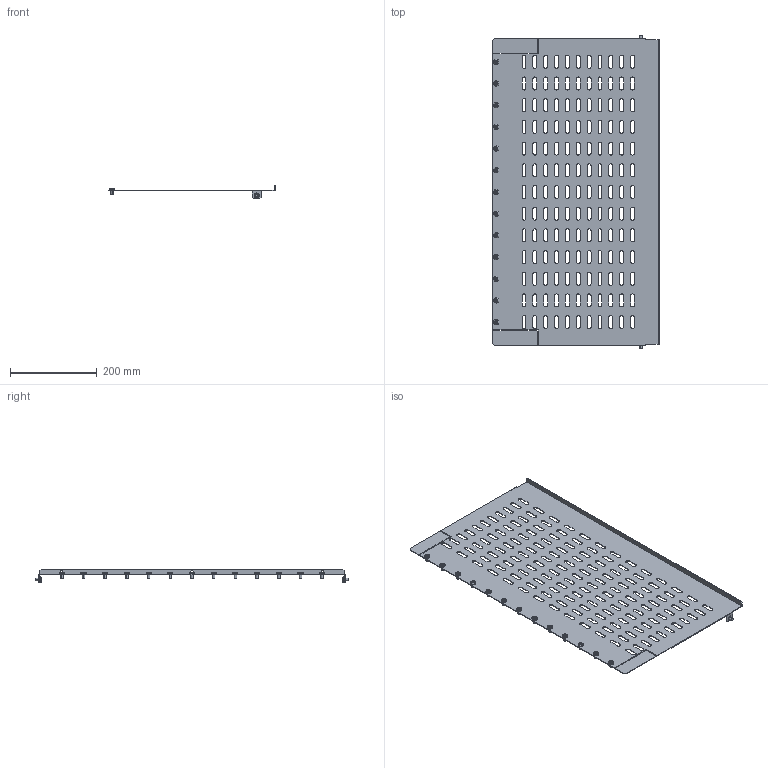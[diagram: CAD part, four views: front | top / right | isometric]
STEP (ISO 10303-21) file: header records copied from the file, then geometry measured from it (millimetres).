
FILE_DESCRIPTION (( 'STEP AP214' ), '1' );
FILE_NAME ('FO-00-SWHR-080 Ïåðåãîðîäêà ñåêöèîíèðîâàíèÿ ãîðèçîíòàëüíàÿ àïïàðàòíîãî îòñåêà øèðèíà 800 ìì.STEP', '2025-08-06T12:20:03', ( '' ), ( '' ), 'SwSTEP 2.0', 'SolidWorks 2023', '' );
FILE_SCHEMA (( 'AUTOMOTIVE_DESIGN' ));
Length unit declared in the file: millimetre
Products named in the file (3): Винт М6х10 IEK; Перегородка секционирования горизонтальная аппаратного отсека ширина 800 мм; FO-00-SWHR-080 Перегородка секционирования горизонтальная аппаратного отсека ширина 800 мм
Assembly tree (16 placements, depth 2):
  FO-00-SWHR-080 Перегородка секционирования горизонтальная аппаратного отсека ширина 800 мм
    Перегородка секционирования горизонтальная аппаратного отсека ширина 800 мм
    Винт М6х10 IEK  x15
Bounding box: 383.5 x 723 x 30.5 mm (x, y, z)
Volume: 373964.6 mm3; surface area: 512776.8 mm2
Topology: 16 solids, 16 shells, 1137 faces, 3135 edges, 2060 vertices
Faces by surface type: plane 530, cylinder 382, cone 165, torus 60
Entity records: 24575 total; most frequent: CARTESIAN_POINT 4219, DIRECTION 4201, ORIENTED_EDGE 4170, EDGE_CURVE 2085, AXIS2_PLACEMENT_3D 1402, LINE 1397, VECTOR 1397, VERTEX_POINT 1388
